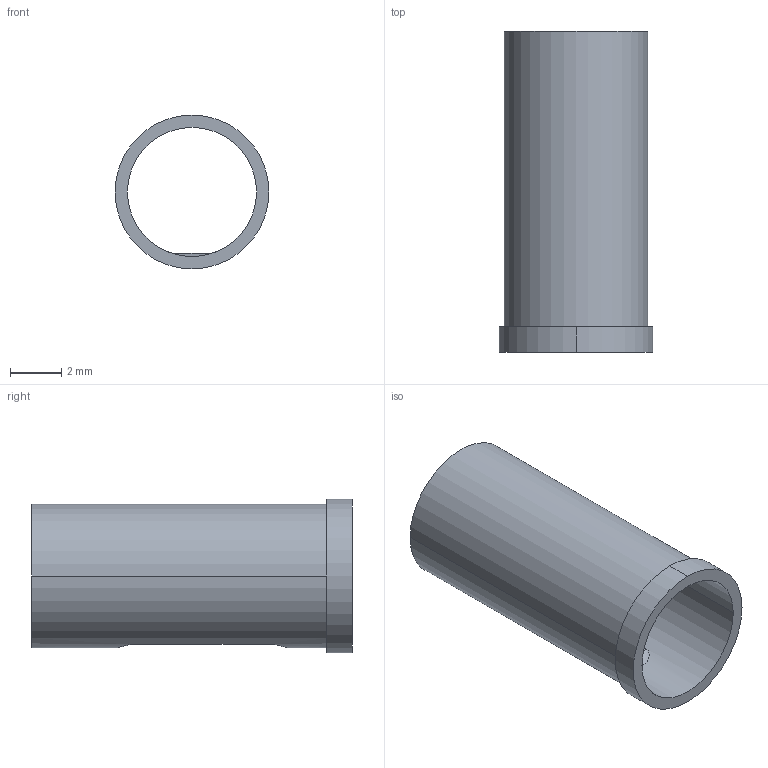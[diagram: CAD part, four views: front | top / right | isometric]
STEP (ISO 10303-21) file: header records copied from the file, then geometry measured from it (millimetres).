
FILE_DESCRIPTION (( 'STEP AP214' ), '1' );
FILE_NAME ('RC4PO.STEP', '2021-07-07T15:08:03', ( '' ), ( '' ), 'SwSTEP 2.0', 'SolidWorks 2021', '' );
FILE_SCHEMA (( 'AUTOMOTIVE_DESIGN' ));
Length unit declared in the file: inch
Products named in the file (1): RC4PO
Bounding box: 5.99 x 12.5 x 5.99 mm (x, y, z)
Volume: 61.9 mm3; surface area: 434.5 mm2
Topology: 1 solids, 1 shells, 15 faces, 30 edges, 20 vertices
Faces by surface type: cylinder 6, plane 5, bspline 4
Entity records: 542 total; most frequent: CARTESIAN_POINT 188, DIRECTION 62, ORIENTED_EDGE 60, EDGE_CURVE 30, AXIS2_PLACEMENT_3D 24, EDGE_LOOP 20, VERTEX_POINT 20, FACE_OUTER_BOUND 15
